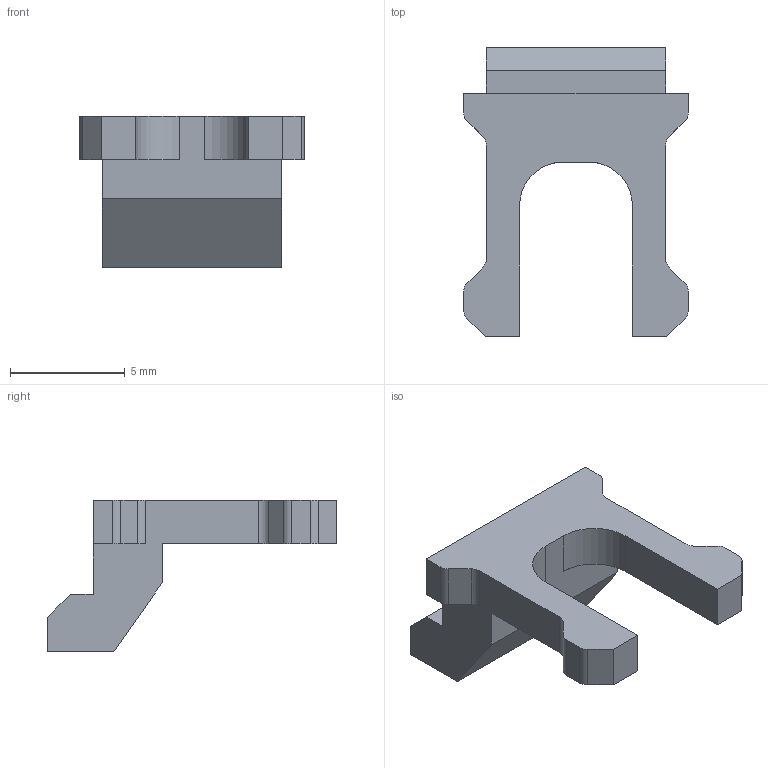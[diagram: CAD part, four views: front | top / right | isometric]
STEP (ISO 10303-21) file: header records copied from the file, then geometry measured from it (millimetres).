
FILE_DESCRIPTION(/* description */ ('STEP AP242','CAx-IF Rec.Pracs.---Representation and Presentation of Product Manufacturing Information (PMI)---4.0---2014-10-13','CAx-IF Rec.Pracs.---3D Tessellated Geometry---0.4---2014-09-14','2;1'),/* implementation_level */ '2;1');
FILE_NAME(/* name */ '687e6b2bf344454910d47d52',/* time_stamp */ '2025-07-21T16:30:35Z',/* author */ (''),/* organization */ (''),/* preprocessor_version */ 'ST-DEVELOPER v20',/* originating_system */ 'ONSHAPE BY PTC INC, 1.201',/* authorisation */ ' ');
FILE_SCHEMA (('AP242_MANAGED_MODEL_BASED_3D_ENGINEERING_MIM_LF { 1 0 10303 442 1 1 4 }'));
Length unit declared in the file: metre
Products named in the file (1): EXT PCB Latch
Bounding box: 9.8 x 12.6 x 6.6 mm (x, y, z)
Volume: 223.9 mm3; surface area: 332.4 mm2
Topology: 1 solids, 1 shells, 40 faces, 114 edges, 76 vertices
Faces by surface type: plane 28, cylinder 12
Entity records: 1324 total; most frequent: CARTESIAN_POINT 231, ORIENTED_EDGE 228, DIRECTION 220, EDGE_CURVE 114, LINE 90, VECTOR 90, VERTEX_POINT 76, AXIS2_PLACEMENT_3D 65
